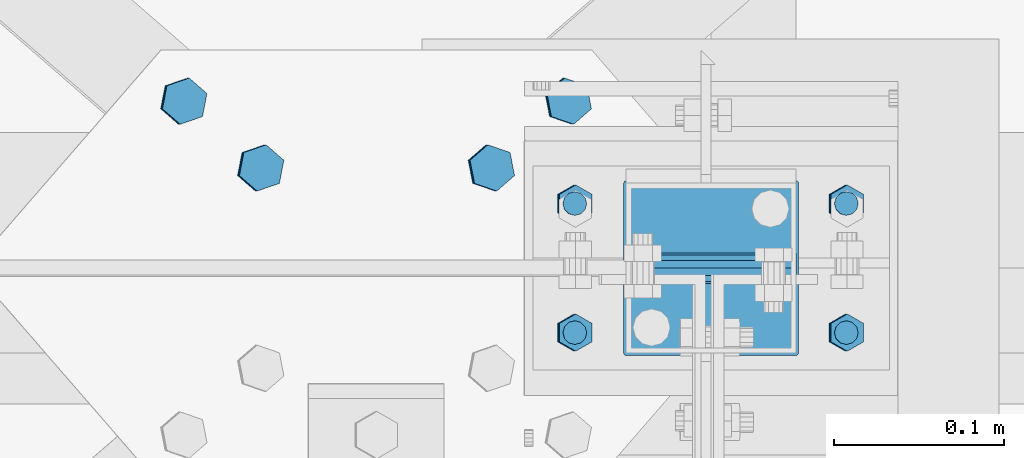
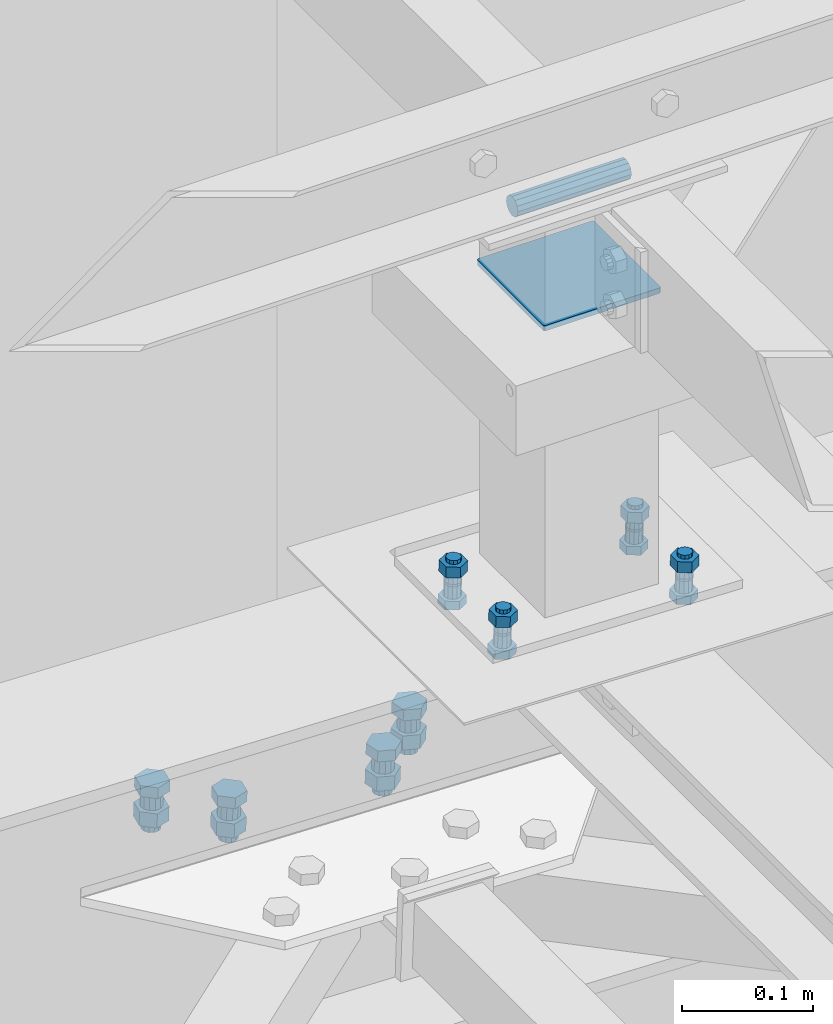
# One storey, part 225 of 3134: 6 mechanical fasteners, 4 elements without a shape of their own.
"""IFC2X3 building model written with IfcOpenShell, lengths in millimetres."""

from ifc_helpers import new_model, si_unit, frame, origin_with_axes, place, context, subcontext, project, spatial, faceted_brep, source, transform, mapped, material, type_object, element, aggregate, save


model = new_model("IFC2X3")

# Units and contexts
model_context = context("Model", 3, precision=1e-05, world=origin_with_axes())
body_context = subcontext(model_context, "Body", "Model", "MODEL_VIEW")
ifc_project = project(units=[si_unit("LENGTHUNIT", "METRE", prefix="MILLI"), si_unit("AREAUNIT", "SQUARE_METRE"), si_unit("VOLUMEUNIT", "CUBIC_METRE"), si_unit("MASSUNIT", "GRAM", prefix="KILO"), si_unit("TIMEUNIT", "SECOND"), si_unit("PLANEANGLEUNIT", "RADIAN"), si_unit("SOLIDANGLEUNIT", "STERADIAN"), si_unit("THERMODYNAMICTEMPERATUREUNIT", "DEGREE_CELSIUS"), si_unit("LUMINOUSINTENSITYUNIT", "LUMEN")], contexts=[model_context])

# Site, building, storey
site_placement = place(None, origin_with_axes())
site = spatial("IfcSite", under=ifc_project, at=site_placement, CompositionType="ELEMENT")
building_placement = place(site_placement, origin_with_axes())
building = spatial("IfcBuilding", under=site, at=building_placement, Name="Undefined", CompositionType="ELEMENT")
storey_placement = place(building_placement, origin_with_axes())
storey = spatial("IfcBuildingStorey", under=building, at=storey_placement, Name="Undefined", CompositionType="ELEMENT", Elevation=0.0)

# Assembly, mechanical fastener
assembly_1_placement = place(storey_placement, origin_with_axes())
assembly_1 = element("IfcElementAssembly", 1, at=assembly_1_placement, inside=storey, AssemblyPlace="NOTDEFINED", PredefinedType="RIGID_FRAME")
ifc_material_1 = material(Name="8.8")
mechanical_fastener_type = type_object("IfcMechanicalFastenerType", Name="Bolt assembly")
shared_shape_1 = source(origin_with_axes(), body_context, "Body", "Brep", [
    faceted_brep([(7.0, 13.0000253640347, 0.0), (6.06217782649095, 13.0000253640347, 3.50000000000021), (3.49999999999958, 13.0000253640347, 6.06217782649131), (-7.25435187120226e-13, 13.0000253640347, 7.0), (-3.50000000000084, 13.0000253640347, 6.06217782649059), (-6.06217782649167, 13.0000253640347, 3.49999999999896), (-7.0, 13.0000253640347, -1.45087037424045e-12), (-6.06217782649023, 13.0000253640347, -3.50000000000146), (-3.49999999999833, 13.0000253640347, -6.06217782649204), (2.1685340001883e-12, 13.0000253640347, -7.0), (3.50000000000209, 13.0000253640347, -6.06217782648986), (6.0621778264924, 13.0000253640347, -3.4999999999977), (6.0621778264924, 15.0999999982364, -3.4999999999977), (3.50000000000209, 15.0999999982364, -6.06217782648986), (2.1685340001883e-12, 15.0999999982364, -7.0), (-3.49999999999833, 15.0999999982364, -6.06217782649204), (-6.06217782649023, 15.0999999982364, -3.50000000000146), (-7.0, 15.0999999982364, -1.45087037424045e-12), (-6.06217782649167, 15.0999999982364, 3.49999999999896), (-3.50000000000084, 15.0999999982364, 6.06217782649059), (-7.25435187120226e-13, 15.0999999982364, 7.0), (3.49999999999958, 15.0999999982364, 6.06217782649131), (6.06217782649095, 15.0999999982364, 3.50000000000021), (7.0, 15.0999999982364, 0.0)], [[[0, 1, 2, 3, 4, 5, 6, 7, 8, 9, 10, 11]], [[12, 13, 14, 15, 16, 17, 18, 19, 20, 21, 22, 23]], [[0, 23, 22, 1]], [[1, 22, 21, 2]], [[2, 21, 20, 3]], [[3, 20, 19, 4]], [[4, 19, 18, 5]], [[5, 18, 17, 6]], [[6, 17, 16, 7]], [[7, 16, 15, 8]], [[8, 15, 14, 9]], [[9, 14, 13, 10]], [[10, 13, 12, 11]], [[11, 12, 23, 0]]]),
])
mechanical_fastener_1_placement = place(assembly_1_placement, frame((23190.2251187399, 52728.0, 10467.1972055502), z_axis=(-0.99951962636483, 0.0, 0.0309922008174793), x_axis=(0.0, -1.0, 0.0)))
mechanical_fastener_1 = element("IfcMechanicalFastener", 2, at=mechanical_fastener_1_placement, type_object=mechanical_fastener_type, material=ifc_material_1, Name="Bolt assembly", NominalDiameter=12.0, NominalLength=2.0, context=body_context, shape_type="MappedRepresentation", body=[
    mapped(shared_shape_1, transform((0.0, -5.32963895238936e-10, -79.9999999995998))),
    mapped(shared_shape_1, transform((76.0, -5.32963895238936e-10, -79.9999999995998))),
    mapped(shared_shape_1, transform((0.0, 5.3114490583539e-10, 79.9999999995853))),
    mapped(shared_shape_1, transform((76.0, 5.3114490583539e-10, 79.9999999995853))),
])
aggregate(assembly_1, [mechanical_fastener_1])

# Assembly, mechanical fasteners
assembly_2_placement = place(storey_placement, origin_with_axes())
assembly_2 = element("IfcElementAssembly", 3, at=assembly_2_placement, inside=storey, AssemblyPlace="NOTDEFINED", PredefinedType="RIGID_FRAME")
shared_shape_2 = source(origin_with_axes(), body_context, "Body", "Brep", [
    faceted_brep([(9.0, -50.0, 0.0), (7.79422863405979, -50.0, 4.50000000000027), (4.49999999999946, -50.0, 7.79422863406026), (-9.3270238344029e-13, -50.0, 9.0), (-4.50000000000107, -50.0, 7.79422863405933), (-7.79422863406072, -50.0, 4.49999999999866), (-9.0, -50.0, -1.86540476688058e-12), (-7.79422863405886, -50.0, -4.50000000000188), (-4.49999999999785, -50.0, -7.79422863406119), (2.78811514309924e-12, -50.0, -9.0), (4.50000000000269, -50.0, -7.7942286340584), (7.79422863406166, -50.0, -4.49999999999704), (7.79422863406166, 50.1, -4.49999999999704), (4.50000000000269, 50.1, -7.7942286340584), (2.78811514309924e-12, 50.1, -9.0), (-4.49999999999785, 50.1, -7.79422863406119), (-7.79422863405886, 50.1, -4.50000000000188), (-9.0, 50.1, -1.86540476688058e-12), (-7.79422863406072, 50.1, 4.49999999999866), (-4.50000000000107, 50.1, 7.79422863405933), (-9.3270238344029e-13, 50.1, 9.0), (4.49999999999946, 50.1, 7.79422863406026), (7.79422863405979, 50.1, 4.50000000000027), (9.0, 50.1, 0.0)], [[[0, 1, 2, 3, 4, 5, 6, 7, 8, 9, 10, 11]], [[12, 13, 14, 15, 16, 17, 18, 19, 20, 21, 22, 23]], [[0, 23, 22, 1]], [[1, 22, 21, 2]], [[2, 21, 20, 3]], [[3, 20, 19, 4]], [[4, 19, 18, 5]], [[5, 18, 17, 6]], [[6, 17, 16, 7]], [[7, 16, 15, 8]], [[8, 15, 14, 9]], [[9, 14, 13, 10]], [[10, 13, 12, 11]], [[11, 12, 23, 0]]]),
])
mechanical_fastener_2_placement = place(assembly_2_placement, frame((23191.0, 52690.0, 10845.0), z_axis=(0.0, 1.0, 0.0), x_axis=(0.0, 0.0, 1.0)))
mechanical_fastener_2 = element("IfcMechanicalFastener", 4, at=mechanical_fastener_2_placement, type_object=mechanical_fastener_type, material=ifc_material_1, Name="Bolt assembly", NominalDiameter=16.0, NominalLength=100.0, context=body_context, shape_type="MappedRepresentation", body=[
    mapped(shared_shape_2, transform((0.0, 0.0, 0.0))),
])
ifc_material_2 = material(Name="6.8")
shared_shape_3 = source(origin_with_axes(), body_context, "Body", "Brep", [
    faceted_brep([(51.5, 1.36424205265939e-12, 50.0), (51.3858192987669, 1.36424205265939e-12, 50.5740251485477), (51.0606601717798, 1.36424205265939e-12, 51.0606601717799), (50.5740251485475, 1.36424205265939e-12, 51.385819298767), (-50.0000000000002, 1.36424205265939e-12, 51.5), (-50.7500000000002, 1.36424205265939e-12, 51.2990381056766), (-51.2990381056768, 1.36424205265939e-12, 50.7499999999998), (-51.5, 1.36424205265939e-12, 49.9999999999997), (-51.5, 1.36424205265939e-12, -50.0000000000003), (-51.2990381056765, 1.36424205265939e-12, -50.7500000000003), (-50.7499999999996, 1.36424205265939e-12, -51.2990381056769), (-49.9999999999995, 1.36424205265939e-12, -51.5), (50.0000000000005, 1.36424205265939e-12, -51.5), (50.7500000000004, 1.36424205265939e-12, -51.2990381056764), (51.2990381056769, 1.36424205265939e-12, -50.7499999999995), (51.5, 1.36424205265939e-12, -49.9999999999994), (51.5, 5.10000000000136, -49.9999999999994), (51.2990381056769, 5.10000000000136, -50.7499999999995), (50.7500000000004, 5.10000000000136, -51.2990381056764), (50.0000000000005, 5.10000000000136, -51.5), (-49.9999999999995, 5.10000000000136, -51.5), (-50.7499999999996, 5.10000000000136, -51.2990381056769), (-51.2990381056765, 5.10000000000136, -50.7500000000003), (-51.5, 5.10000000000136, -50.0000000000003), (-51.5, 5.10000000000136, 49.9999999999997), (-51.2990381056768, 5.10000000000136, 50.7499999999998), (-50.7500000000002, 5.10000000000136, 51.2990381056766), (-50.0000000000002, 5.10000000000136, 51.5), (50.5740251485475, 5.10000000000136, 51.385819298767), (51.0606601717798, 5.10000000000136, 51.0606601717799), (51.3858192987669, 5.10000000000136, 50.5740251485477), (51.5, 5.10000000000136, 50.0)], [[[0, 1, 2, 3, 4, 5, 6, 7, 8, 9, 10, 11, 12, 13, 14, 15]], [[16, 17, 18, 19, 20, 21, 22, 23, 24, 25, 26, 27, 28, 29, 30, 31]], [[0, 31, 30, 1]], [[1, 30, 29, 2]], [[2, 29, 28, 3]], [[3, 28, 27, 4]], [[4, 27, 26, 5]], [[5, 26, 25, 6]], [[6, 25, 24, 7]], [[7, 24, 23, 8]], [[8, 23, 22, 9]], [[9, 22, 21, 10]], [[10, 21, 20, 11]], [[11, 20, 19, 12]], [[12, 19, 18, 13]], [[13, 18, 17, 14]], [[14, 17, 16, 15]], [[15, 16, 31, 0]]]),
])
mechanical_fastener_3_placement = place(assembly_2_placement, frame((23191.0, 52690.0, 10765.0), z_axis=(0.0, -1.0, 0.0), x_axis=(-1.0, 0.0, 0.0)))
mechanical_fastener_3 = element("IfcMechanicalFastener", 5, at=mechanical_fastener_3_placement, type_object=mechanical_fastener_type, material=ifc_material_2, Name="Bolt assembly", NominalDiameter=10.0, NominalLength=5.0, context=body_context, shape_type="MappedRepresentation", body=[
    mapped(shared_shape_3, transform((0.0, 0.0, 0.0))),
])
aggregate(assembly_2, [mechanical_fastener_3, mechanical_fastener_2])

# Assembly, mechanical fastener
assembly_3_placement = place(storey_placement, origin_with_axes())
assembly_3 = element("IfcElementAssembly", 6, at=assembly_3_placement, inside=storey, AssemblyPlace="NOTDEFINED", PredefinedType="RIGID_FRAME")
shared_shape_4 = source(origin_with_axes(), body_context, "Body", "Brep", [
    faceted_brep([(13.856406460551, -14.0, 0.0), (6.92820323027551, -14.0, 12.0), (-6.92820323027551, -14.0, 12.0), (-13.856406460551, -14.0, 1.69692038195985e-15), (-6.92820323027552, -14.0, -12.0), (6.9282032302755, -14.0, -12.0), (6.9282032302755, -4.00000145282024, -12.0), (-6.92820323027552, -4.00000145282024, -12.0), (-13.856406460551, -4.00000145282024, 1.69692038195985e-15), (-6.92820323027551, -4.00000145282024, 12.0), (6.92820323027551, -4.00000145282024, 12.0), (13.856406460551, -4.00000145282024, 0.0), (8.0, -4.00000145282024, 0.0), (6.92820323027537, -4.00000145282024, 4.00000000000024), (3.99999999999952, -4.00000145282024, 6.92820323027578), (-8.29068785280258e-13, -4.00000145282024, 8.0), (-4.00000000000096, -4.00000145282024, 6.92820323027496), (-6.9282032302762, -4.00000145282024, 3.99999999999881), (-8.0, -4.00000145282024, -1.65813757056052e-12), (-6.92820323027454, -4.00000145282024, -4.00000000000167), (-3.99999999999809, -4.00000145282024, -6.92820323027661), (2.47832457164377e-12, -4.00000145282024, -8.0), (4.00000000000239, -4.00000145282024, -6.92820323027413), (6.92820323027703, -4.00000145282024, -3.99999999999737), (6.92820323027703, 31.0, -3.99999999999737), (4.00000000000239, 31.0, -6.92820323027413), (2.47832457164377e-12, 31.0, -8.0), (-3.99999999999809, 31.0, -6.92820323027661), (-6.92820323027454, 31.0, -4.00000000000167), (-8.0, 31.0, -1.65813757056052e-12), (-6.9282032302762, 31.0, 3.99999999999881), (-4.00000000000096, 31.0, 6.92820323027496), (-8.29068785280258e-13, 31.0, 8.0), (3.99999999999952, 31.0, 6.92820323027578), (6.92820323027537, 31.0, 4.00000000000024), (8.0, 31.0, 0.0), (13.856406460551, 9.99999995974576, 0.0), (6.92820323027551, 9.99999995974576, 12.0), (-6.92820323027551, 9.99999995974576, 12.0), (-13.856406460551, 9.99999995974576, 1.69692038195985e-15), (-6.92820323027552, 9.99999995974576, -12.0), (6.9282032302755, 9.99999995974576, -12.0), (6.9282032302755, 22.9999913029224, -12.0), (-6.92820323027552, 22.9999913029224, -12.0), (-13.856406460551, 22.9999913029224, 1.69692038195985e-15), (-6.92820323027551, 22.9999913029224, 12.0), (6.92820323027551, 22.9999913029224, 12.0), (13.856406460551, 22.9999913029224, 0.0)], [[[0, 1, 2, 3, 4, 5]], [[6, 7, 8, 9, 10, 11]], [[0, 11, 10, 1]], [[1, 10, 9, 2]], [[2, 9, 8, 3]], [[3, 8, 7, 4]], [[4, 7, 6, 5]], [[5, 6, 11, 0]], [[12, 13, 14, 15, 16, 17, 18, 19, 20, 21, 22, 23]], [[24, 25, 26, 27, 28, 29, 30, 31, 32, 33, 34, 35]], [[12, 35, 34, 13]], [[13, 34, 33, 14]], [[14, 33, 32, 15]], [[15, 32, 31, 16]], [[16, 31, 30, 17]], [[17, 30, 29, 18]], [[18, 29, 28, 19]], [[19, 28, 27, 20]], [[20, 27, 26, 21]], [[21, 26, 25, 22]], [[22, 25, 24, 23]], [[23, 24, 35, 12]], [[36, 37, 38, 39, 40, 41]], [[42, 43, 44, 45, 46, 47]], [[36, 47, 46, 37]], [[37, 46, 45, 38]], [[38, 45, 44, 39]], [[39, 44, 43, 40]], [[40, 43, 42, 41]], [[41, 42, 47, 36]]]),
    faceted_brep([(9.0, -3.9, 0.0), (7.79422863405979, -3.9, 4.50000000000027), (4.49999999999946, -3.9, 7.79422863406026), (-9.3270238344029e-13, -3.9, 9.0), (-4.50000000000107, -3.9, 7.79422863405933), (-7.79422863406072, -3.9, 4.49999999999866), (-9.0, -3.9, -1.86540476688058e-12), (-7.79422863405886, -3.9, -4.50000000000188), (-4.49999999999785, -3.9, -7.79422863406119), (2.78811514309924e-12, -3.9, -9.0), (4.50000000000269, -3.9, -7.7942286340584), (7.79422863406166, -3.9, -4.49999999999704), (7.79422863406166, 4.09999854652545, -4.49999999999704), (4.50000000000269, 4.09999854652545, -7.7942286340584), (2.78811514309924e-12, 4.09999854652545, -9.0), (-4.49999999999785, 4.09999854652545, -7.79422863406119), (-7.79422863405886, 4.09999854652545, -4.50000000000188), (-9.0, 4.09999854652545, -1.86540476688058e-12), (-7.79422863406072, 4.09999854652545, 4.49999999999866), (-4.50000000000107, 4.09999854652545, 7.79422863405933), (-9.3270238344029e-13, 4.09999854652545, 9.0), (4.49999999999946, 4.09999854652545, 7.79422863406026), (7.79422863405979, 4.09999854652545, 4.50000000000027), (9.0, 4.09999854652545, 0.0), (9.0, 3.9, 0.0), (7.79422863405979, 3.9, 4.50000000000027), (4.49999999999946, 3.9, 7.79422863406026), (-9.3270238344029e-13, 3.9, 9.0), (-4.50000000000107, 3.9, 7.79422863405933), (-7.79422863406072, 3.9, 4.49999999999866), (-9.0, 3.9, -1.86540476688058e-12), (-7.79422863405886, 3.9, -4.50000000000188), (-4.49999999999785, 3.9, -7.79422863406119), (2.78811514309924e-12, 3.9, -9.0), (4.50000000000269, 3.9, -7.7942286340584), (7.79422863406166, 3.9, -4.49999999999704), (7.79422863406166, 9.99999995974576, -4.49999999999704), (4.50000000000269, 9.99999995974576, -7.7942286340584), (2.78811514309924e-12, 9.99999995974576, -9.0), (-4.49999999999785, 9.99999995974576, -7.79422863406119), (-7.79422863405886, 9.99999995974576, -4.50000000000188), (-9.0, 9.99999995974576, -1.86540476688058e-12), (-7.79422863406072, 9.99999995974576, 4.49999999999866), (-4.50000000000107, 9.99999995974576, 7.79422863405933), (-9.3270238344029e-13, 9.99999995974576, 9.0), (4.49999999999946, 9.99999995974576, 7.79422863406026), (7.79422863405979, 9.99999995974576, 4.50000000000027), (9.0, 9.99999995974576, 0.0)], [[[0, 1, 2, 3, 4, 5, 6, 7, 8, 9, 10, 11]], [[12, 13, 14, 15, 16, 17, 18, 19, 20, 21, 22, 23]], [[0, 23, 22, 1]], [[1, 22, 21, 2]], [[2, 21, 20, 3]], [[3, 20, 19, 4]], [[4, 19, 18, 5]], [[5, 18, 17, 6]], [[6, 17, 16, 7]], [[7, 16, 15, 8]], [[8, 15, 14, 9]], [[9, 14, 13, 10]], [[10, 13, 12, 11]], [[11, 12, 23, 0]], [[24, 25, 26, 27, 28, 29, 30, 31, 32, 33, 34, 35]], [[36, 37, 38, 39, 40, 41, 42, 43, 44, 45, 46, 47]], [[24, 47, 46, 25]], [[25, 46, 45, 26]], [[26, 45, 44, 27]], [[27, 44, 43, 28]], [[28, 43, 42, 29]], [[29, 42, 41, 30]], [[30, 41, 40, 31]], [[31, 40, 39, 32]], [[32, 39, 38, 33]], [[33, 38, 37, 34]], [[34, 37, 36, 35]], [[35, 36, 47, 24]]]),
])
mechanical_fastener_4_placement = place(assembly_3_placement, frame((23106.9672243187, 52788.3356884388, 10322.7171545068), z_axis=(0.655256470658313, -0.755133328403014, -0.0203129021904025), x_axis=(-0.754770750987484, -0.655571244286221, 0.0233978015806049)))
mechanical_fastener_4 = element("IfcMechanicalFastener", 7, at=mechanical_fastener_4_placement, type_object=mechanical_fastener_type, material=ifc_material_1, Name="Bolt assembly", NominalDiameter=16.0, NominalLength=35.0, context=body_context, shape_type="MappedRepresentation", body=[
    mapped(shared_shape_4, transform((0.0, 0.0, 0.0))),
    mapped(shared_shape_4, transform((59.9999999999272, 0.0, 5.40239852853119e-10))),
])
aggregate(assembly_3, [mechanical_fastener_4])

# Assembly, mechanical fasteners
assembly_4_placement = place(storey_placement, origin_with_axes())
assembly_4 = element("IfcElementAssembly", 8, at=assembly_4_placement, inside=storey, Name="IPE330", AssemblyPlace="NOTDEFINED", PredefinedType="RIGID_FRAME")
shared_shape_5 = source(origin_with_axes(), body_context, "Body", "Brep", [
    faceted_brep([(13.856406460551, -14.0, 0.0), (6.92820323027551, -14.0, 12.0), (-6.92820323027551, -14.0, 12.0), (-13.856406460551, -14.0, 1.69692038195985e-15), (-6.92820323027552, -14.0, -12.0), (6.9282032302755, -14.0, -12.0), (6.9282032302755, -4.00000145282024, -12.0), (-6.92820323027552, -4.00000145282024, -12.0), (-13.856406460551, -4.00000145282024, 1.69692038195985e-15), (-6.92820323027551, -4.00000145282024, 12.0), (6.92820323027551, -4.00000145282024, 12.0), (13.856406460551, -4.00000145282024, 0.0), (8.0, -4.00000145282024, 0.0), (6.92820323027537, -4.00000145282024, 4.00000000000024), (3.99999999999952, -4.00000145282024, 6.92820323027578), (-8.29068785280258e-13, -4.00000145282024, 8.0), (-4.00000000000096, -4.00000145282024, 6.92820323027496), (-6.9282032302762, -4.00000145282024, 3.99999999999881), (-8.0, -4.00000145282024, -1.65813757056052e-12), (-6.92820323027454, -4.00000145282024, -4.00000000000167), (-3.99999999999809, -4.00000145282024, -6.92820323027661), (2.47832457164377e-12, -4.00000145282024, -8.0), (4.00000000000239, -4.00000145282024, -6.92820323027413), (6.92820323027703, -4.00000145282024, -3.99999999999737), (6.92820323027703, 31.0, -3.99999999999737), (4.00000000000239, 31.0, -6.92820323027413), (2.47832457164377e-12, 31.0, -8.0), (-3.99999999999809, 31.0, -6.92820323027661), (-6.92820323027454, 31.0, -4.00000000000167), (-8.0, 31.0, -1.65813757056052e-12), (-6.9282032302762, 31.0, 3.99999999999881), (-4.00000000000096, 31.0, 6.92820323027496), (-8.29068785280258e-13, 31.0, 8.0), (3.99999999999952, 31.0, 6.92820323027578), (6.92820323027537, 31.0, 4.00000000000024), (8.0, 31.0, 0.0), (13.856406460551, 9.99999995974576, 0.0), (6.92820323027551, 9.99999995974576, 12.0), (-6.92820323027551, 9.99999995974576, 12.0), (-13.856406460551, 9.99999995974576, 1.69692038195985e-15), (-6.92820323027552, 9.99999995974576, -12.0), (6.9282032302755, 9.99999995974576, -12.0), (6.9282032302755, 22.9999913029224, -12.0), (-6.92820323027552, 22.9999913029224, -12.0), (-13.856406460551, 22.9999913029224, 1.69692038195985e-15), (-6.92820323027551, 22.9999913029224, 12.0), (6.92820323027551, 22.9999913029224, 12.0), (13.856406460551, 22.9999913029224, 0.0)], [[[0, 1, 2, 3, 4, 5]], [[6, 7, 8, 9, 10, 11]], [[0, 11, 10, 1]], [[1, 10, 9, 2]], [[2, 9, 8, 3]], [[3, 8, 7, 4]], [[4, 7, 6, 5]], [[5, 6, 11, 0]], [[12, 13, 14, 15, 16, 17, 18, 19, 20, 21, 22, 23]], [[24, 25, 26, 27, 28, 29, 30, 31, 32, 33, 34, 35]], [[12, 35, 34, 13]], [[13, 34, 33, 14]], [[14, 33, 32, 15]], [[15, 32, 31, 16]], [[16, 31, 30, 17]], [[17, 30, 29, 18]], [[18, 29, 28, 19]], [[19, 28, 27, 20]], [[20, 27, 26, 21]], [[21, 26, 25, 22]], [[22, 25, 24, 23]], [[23, 24, 35, 12]], [[36, 37, 38, 39, 40, 41]], [[42, 43, 44, 45, 46, 47]], [[36, 47, 46, 37]], [[37, 46, 45, 38]], [[38, 45, 44, 39]], [[39, 44, 43, 40]], [[40, 43, 42, 41]], [[41, 42, 47, 36]]]),
    faceted_brep([(9.0, 3.9, 0.0), (7.79422863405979, 3.9, 4.50000000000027), (4.49999999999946, 3.9, 7.79422863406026), (-9.3270238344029e-13, 3.9, 9.0), (-4.50000000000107, 3.9, 7.79422863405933), (-7.79422863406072, 3.9, 4.49999999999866), (-9.0, 3.9, -1.86540476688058e-12), (-7.79422863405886, 3.9, -4.50000000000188), (-4.49999999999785, 3.9, -7.79422863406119), (2.78811514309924e-12, 3.9, -9.0), (4.50000000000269, 3.9, -7.7942286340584), (7.79422863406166, 3.9, -4.49999999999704), (7.79422863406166, 9.99999995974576, -4.49999999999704), (4.50000000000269, 9.99999995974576, -7.7942286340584), (2.78811514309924e-12, 9.99999995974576, -9.0), (-4.49999999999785, 9.99999995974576, -7.79422863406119), (-7.79422863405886, 9.99999995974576, -4.50000000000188), (-9.0, 9.99999995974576, -1.86540476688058e-12), (-7.79422863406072, 9.99999995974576, 4.49999999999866), (-4.50000000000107, 9.99999995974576, 7.79422863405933), (-9.3270238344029e-13, 9.99999995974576, 9.0), (4.49999999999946, 9.99999995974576, 7.79422863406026), (7.79422863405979, 9.99999995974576, 4.50000000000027), (9.0, 9.99999995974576, 0.0), (9.0, -3.9, 0.0), (7.79422863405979, -3.9, 4.50000000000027), (4.49999999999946, -3.9, 7.79422863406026), (-9.3270238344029e-13, -3.9, 9.0), (-4.50000000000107, -3.9, 7.79422863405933), (-7.79422863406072, -3.9, 4.49999999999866), (-9.0, -3.9, -1.86540476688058e-12), (-7.79422863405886, -3.9, -4.50000000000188), (-4.49999999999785, -3.9, -7.79422863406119), (2.78811514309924e-12, -3.9, -9.0), (4.50000000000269, -3.9, -7.7942286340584), (7.79422863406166, -3.9, -4.49999999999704), (7.79422863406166, 4.09999854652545, -4.49999999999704), (4.50000000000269, 4.09999854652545, -7.7942286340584), (2.78811514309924e-12, 4.09999854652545, -9.0), (-4.49999999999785, 4.09999854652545, -7.79422863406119), (-7.79422863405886, 4.09999854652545, -4.50000000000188), (-9.0, 4.09999854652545, -1.86540476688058e-12), (-7.79422863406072, 4.09999854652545, 4.49999999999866), (-4.50000000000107, 4.09999854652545, 7.79422863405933), (-9.3270238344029e-13, 4.09999854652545, 9.0), (4.49999999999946, 4.09999854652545, 7.79422863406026), (7.79422863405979, 4.09999854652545, 4.50000000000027), (9.0, 4.09999854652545, 0.0)], [[[0, 1, 2, 3, 4, 5, 6, 7, 8, 9, 10, 11]], [[12, 13, 14, 15, 16, 17, 18, 19, 20, 21, 22, 23]], [[0, 23, 22, 1]], [[1, 22, 21, 2]], [[2, 21, 20, 3]], [[3, 20, 19, 4]], [[4, 19, 18, 5]], [[5, 18, 17, 6]], [[6, 17, 16, 7]], [[7, 16, 15, 8]], [[8, 15, 14, 9]], [[9, 14, 13, 10]], [[10, 13, 12, 11]], [[11, 12, 23, 0]], [[24, 25, 26, 27, 28, 29, 30, 31, 32, 33, 34, 35]], [[36, 37, 38, 39, 40, 41, 42, 43, 44, 45, 46, 47]], [[24, 47, 46, 25]], [[25, 46, 45, 26]], [[26, 45, 44, 27]], [[27, 44, 43, 28]], [[28, 43, 42, 29]], [[29, 42, 41, 30]], [[30, 41, 40, 31]], [[31, 40, 39, 32]], [[32, 39, 38, 33]], [[33, 38, 37, 34]], [[34, 37, 36, 35]], [[35, 36, 47, 24]]]),
])
mechanical_fastener_5_placement = place(assembly_4_placement, frame((22925.8168711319, 52748.9952136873, 10328.3328154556), z_axis=(-0.655215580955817, -0.75516884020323, 0.0203117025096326), x_axis=(-0.754806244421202, 0.655530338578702, 0.0233989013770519)))
mechanical_fastener_5 = element("IfcMechanicalFastener", 9, at=mechanical_fastener_5_placement, type_object=mechanical_fastener_type, material=ifc_material_1, Name="Bolt assembly", NominalDiameter=16.0, NominalLength=35.0, context=body_context, shape_type="MappedRepresentation", body=[
    mapped(shared_shape_5, transform((0.0, 0.0, 0.0))),
    mapped(shared_shape_5, transform((59.9999999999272, 0.0, 5.40239852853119e-10))),
])
shared_shape_6 = source(origin_with_axes(), body_context, "Body", "Brep", [
    faceted_brep([(10.9696551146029, -6.48983494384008, 0.0), (5.48482755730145, -6.48983494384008, 9.5), (-5.48482755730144, -6.48983494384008, 9.5), (-10.9696551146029, -6.48983494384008, 1.34339530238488e-15), (-5.48482755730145, -6.48983494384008, -9.5), (5.48482755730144, -6.48983494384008, -9.50000000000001), (5.48482755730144, 1.51016505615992, -9.50000000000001), (-5.48482755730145, 1.51016505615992, -9.5), (-10.9696551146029, 1.51016505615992, 1.34339530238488e-15), (-5.48482755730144, 1.51016505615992, 9.5), (5.48482755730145, 1.51016505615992, 9.5), (10.9696551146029, 1.51016505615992, 0.0), (6.0, 1.51016505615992, 0.0), (5.19615242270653, 1.51016505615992, 3.00000000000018), (2.99999999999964, 1.51016505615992, 5.19615242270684), (-6.21801588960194e-13, 1.51016505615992, 6.0), (-3.00000000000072, 1.51016505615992, 5.19615242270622), (-5.19615242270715, 1.51016505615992, 2.9999999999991), (-6.0, 1.51016505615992, -1.24360317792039e-12), (-5.19615242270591, 1.51016505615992, -3.00000000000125), (-2.99999999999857, 1.51016505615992, -5.19615242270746), (1.85874342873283e-12, 1.51016505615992, -6.0), (3.00000000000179, 1.51016505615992, -5.1961524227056), (5.19615242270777, 1.51016505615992, -2.99999999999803), (5.19615242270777, 36.5101650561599, -2.99999999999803), (3.00000000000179, 36.5101650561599, -5.1961524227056), (1.85874342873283e-12, 36.5101650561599, -6.0), (-2.99999999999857, 36.5101650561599, -5.19615242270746), (-5.19615242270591, 36.5101650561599, -3.00000000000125), (-6.0, 36.5101650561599, -1.24360317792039e-12), (-5.19615242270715, 36.5101650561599, 2.9999999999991), (-3.00000000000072, 36.5101650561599, 5.19615242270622), (-6.21801588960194e-13, 36.5101650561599, 6.0), (2.99999999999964, 36.5101650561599, 5.19615242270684), (5.19615242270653, 36.5101650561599, 3.00000000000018), (6.0, 36.5101650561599, 0.0), (10.9696551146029, 23.0039050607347, 0.0), (5.48482755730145, 23.0039050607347, 9.5), (-5.48482755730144, 23.0039050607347, 9.5), (-10.9696551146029, 23.0039050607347, 1.34339530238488e-15), (-5.48482755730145, 23.0039050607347, -9.5), (5.48482755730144, 23.0039050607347, -9.50000000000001), (5.48482755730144, 33.0039050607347, -9.50000000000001), (-5.48482755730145, 33.0039050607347, -9.5), (-10.9696551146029, 33.0039050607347, 1.34339530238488e-15), (-5.48482755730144, 33.0039050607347, 9.5), (5.48482755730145, 33.0039050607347, 9.5), (10.9696551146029, 33.0039050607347, 0.0)], [[[0, 1, 2, 3, 4, 5]], [[6, 7, 8, 9, 10, 11]], [[0, 11, 10, 1]], [[1, 10, 9, 2]], [[2, 9, 8, 3]], [[3, 8, 7, 4]], [[4, 7, 6, 5]], [[5, 6, 11, 0]], [[12, 13, 14, 15, 16, 17, 18, 19, 20, 21, 22, 23]], [[24, 25, 26, 27, 28, 29, 30, 31, 32, 33, 34, 35]], [[12, 35, 34, 13]], [[13, 34, 33, 14]], [[14, 33, 32, 15]], [[15, 32, 31, 16]], [[16, 31, 30, 17]], [[17, 30, 29, 18]], [[18, 29, 28, 19]], [[19, 28, 27, 20]], [[20, 27, 26, 21]], [[21, 26, 25, 22]], [[22, 25, 24, 23]], [[23, 24, 35, 12]], [[36, 37, 38, 39, 40, 41]], [[42, 43, 44, 45, 46, 47]], [[36, 47, 46, 37]], [[37, 46, 45, 38]], [[38, 45, 44, 39]], [[39, 44, 43, 40]], [[40, 43, 42, 41]], [[41, 42, 47, 36]]]),
    faceted_brep([(7.0, 14.9039050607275, 0.0), (6.06217782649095, 14.9039050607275, 3.50000000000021), (3.49999999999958, 14.9039050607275, 6.06217782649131), (-7.25435187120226e-13, 14.9039050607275, 7.0), (-3.50000000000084, 14.9039050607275, 6.06217782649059), (-6.06217782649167, 14.9039050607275, 3.49999999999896), (-7.0, 14.9039050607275, -1.45087037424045e-12), (-6.06217782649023, 14.9039050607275, -3.50000000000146), (-3.49999999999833, 14.9039050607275, -6.06217782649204), (2.1685340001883e-12, 14.9039050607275, -7.0), (3.50000000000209, 14.9039050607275, -6.06217782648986), (6.0621778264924, 14.9039050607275, -3.4999999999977), (6.0621778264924, 23.0039050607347, -3.4999999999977), (3.50000000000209, 23.0039050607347, -6.06217782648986), (2.1685340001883e-12, 23.0039050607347, -7.0), (-3.49999999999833, 23.0039050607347, -6.06217782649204), (-6.06217782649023, 23.0039050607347, -3.50000000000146), (-7.0, 23.0039050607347, -1.45087037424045e-12), (-6.06217782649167, 23.0039050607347, 3.49999999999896), (-3.50000000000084, 23.0039050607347, 6.06217782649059), (-7.25435187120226e-13, 23.0039050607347, 7.0), (3.49999999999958, 23.0039050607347, 6.06217782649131), (6.06217782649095, 23.0039050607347, 3.50000000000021), (7.0, 23.0039050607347, 0.0), (7.0, 1.61016505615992, 0.0), (6.06217782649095, 1.61016505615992, 3.50000000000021), (3.49999999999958, 1.61016505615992, 6.06217782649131), (-7.25435187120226e-13, 1.61016505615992, 7.0), (-3.50000000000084, 1.61016505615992, 6.06217782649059), (-6.06217782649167, 1.61016505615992, 3.49999999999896), (-7.0, 1.61016505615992, -1.45087037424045e-12), (-6.06217782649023, 1.61016505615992, -3.50000000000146), (-3.49999999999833, 1.61016505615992, -6.06217782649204), (2.1685340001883e-12, 1.61016505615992, -7.0), (3.50000000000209, 1.61016505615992, -6.06217782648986), (6.0621778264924, 1.61016505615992, -3.4999999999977), (6.0621778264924, 13.1101650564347, -3.4999999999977), (3.50000000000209, 13.1101650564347, -6.06217782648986), (2.1685340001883e-12, 13.1101650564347, -7.0), (-3.49999999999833, 13.1101650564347, -6.06217782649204), (-6.06217782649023, 13.1101650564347, -3.50000000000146), (-7.0, 13.1101650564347, -1.45087037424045e-12), (-6.06217782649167, 13.1101650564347, 3.49999999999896), (-3.50000000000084, 13.1101650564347, 6.06217782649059), (-7.25435187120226e-13, 13.1101650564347, 7.0), (3.49999999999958, 13.1101650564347, 6.06217782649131), (6.06217782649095, 13.1101650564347, 3.50000000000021), (7.0, 13.1101650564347, 0.0)], [[[0, 1, 2, 3, 4, 5, 6, 7, 8, 9, 10, 11]], [[12, 13, 14, 15, 16, 17, 18, 19, 20, 21, 22, 23]], [[0, 23, 22, 1]], [[1, 22, 21, 2]], [[2, 21, 20, 3]], [[3, 20, 19, 4]], [[4, 19, 18, 5]], [[5, 18, 17, 6]], [[6, 17, 16, 7]], [[7, 16, 15, 8]], [[8, 15, 14, 9]], [[9, 14, 13, 10]], [[10, 13, 12, 11]], [[11, 12, 23, 0]], [[24, 25, 26, 27, 28, 29, 30, 31, 32, 33, 34, 35]], [[36, 37, 38, 39, 40, 41, 42, 43, 44, 45, 46, 47]], [[24, 47, 46, 25]], [[25, 46, 45, 26]], [[26, 45, 44, 27]], [[27, 44, 43, 28]], [[28, 43, 42, 29]], [[29, 42, 41, 30]], [[30, 41, 40, 31]], [[31, 40, 39, 32]], [[32, 39, 38, 33]], [[33, 38, 37, 34]], [[34, 37, 36, 35]], [[35, 36, 47, 24]]]),
])
mechanical_fastener_6_placement = place(assembly_4_placement, frame((23190.2251187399, 52728.0, 10467.1972055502), z_axis=(-0.99951962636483, 0.0, 0.0309922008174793), x_axis=(0.0, -1.0, 0.0)))
mechanical_fastener_6 = element("IfcMechanicalFastener", 10, at=mechanical_fastener_6_placement, type_object=mechanical_fastener_type, material=ifc_material_1, Name="Bolt assembly", NominalDiameter=12.0, NominalLength=35.0, context=body_context, shape_type="MappedRepresentation", body=[
    mapped(shared_shape_6, transform((0.0, -5.32963895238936e-10, -79.9999999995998))),
    mapped(shared_shape_6, transform((76.0, -5.32963895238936e-10, -79.9999999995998))),
    mapped(shared_shape_6, transform((0.0, 5.3114490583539e-10, 79.9999999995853))),
    mapped(shared_shape_6, transform((76.0, 5.3114490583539e-10, 79.9999999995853))),
])
aggregate(assembly_4, [mechanical_fastener_5, mechanical_fastener_6])

save(model, "model.ifc")
